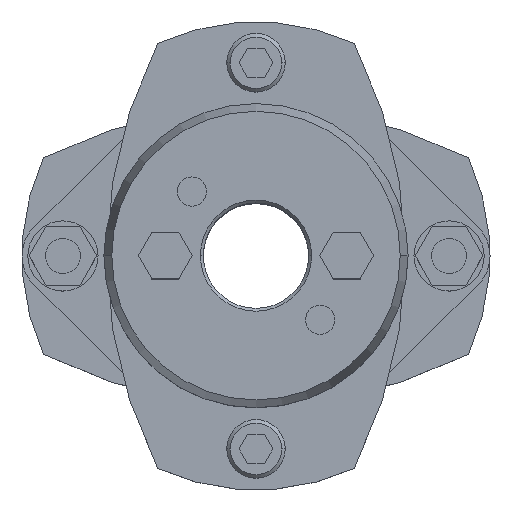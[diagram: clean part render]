
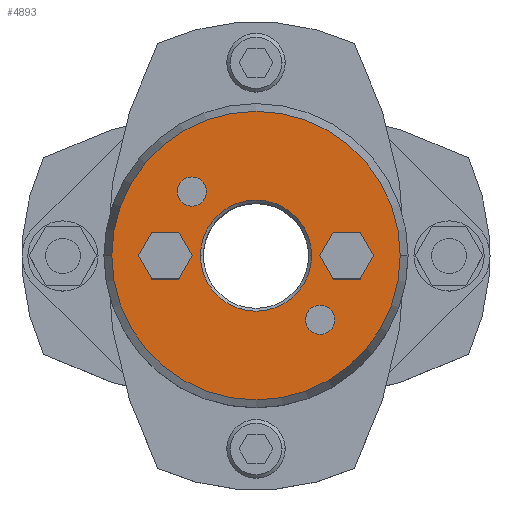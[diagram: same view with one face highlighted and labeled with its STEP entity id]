
A CAD part, top view. The second image highlights one B-rep face of the part: STEP entity #4893.
In plain terms, the highlighted planar face has unit normal (0, 0, 1).
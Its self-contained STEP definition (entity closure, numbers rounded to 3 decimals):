
#857=CARTESIAN_POINT('',(-9.5,0.,35.875));
#858=VERTEX_POINT('',#857);
#874=CARTESIAN_POINT('',(9.5,0.,35.875));
#875=VERTEX_POINT('',#874);
#882=CARTESIAN_POINT('',(0.,0.,35.875));
#883=DIRECTION('',(0.0,0.0,1.0));
#884=DIRECTION('',(-1.0,0.0,0.0));
#885=AXIS2_PLACEMENT_3D('',#882,#883,#884);
#886=CIRCLE('',#885,9.5);
#887=EDGE_CURVE('',#875,#858,#886,.T.);
#1045=CARTESIAN_POINT('',(24.66,0.,35.875));
#1046=VERTEX_POINT('',#1045);
#1053=CARTESIAN_POINT('',(-24.66,0.,35.875));
#1054=VERTEX_POINT('',#1053);
#1055=CARTESIAN_POINT('',(0.,0.,35.875));
#1056=DIRECTION('',(0.0,0.0,-1.0));
#1057=DIRECTION('',(1.0,0.0,0.0));
#1058=AXIS2_PLACEMENT_3D('',#1055,#1056,#1057);
#1059=CIRCLE('',#1058,24.66);
#1060=EDGE_CURVE('',#1046,#1054,#1059,.T.);
#1155=CARTESIAN_POINT('',(-13.46,10.96,35.875));
#1156=VERTEX_POINT('',#1155);
#1172=CARTESIAN_POINT('',(-8.46,10.96,35.875));
#1173=VERTEX_POINT('',#1172);
#1180=CARTESIAN_POINT('',(-10.96,10.96,35.875));
#1181=DIRECTION('',(0.0,0.0,-1.0));
#1182=DIRECTION('',(-1.0,0.0,0.0));
#1183=AXIS2_PLACEMENT_3D('',#1180,#1181,#1182);
#1184=CIRCLE('',#1183,2.5);
#1185=EDGE_CURVE('',#1156,#1173,#1184,.T.);
#1197=CARTESIAN_POINT('',(8.46,-10.96,35.875));
#1198=VERTEX_POINT('',#1197);
#1214=CARTESIAN_POINT('',(13.46,-10.96,35.875));
#1215=VERTEX_POINT('',#1214);
#1222=CARTESIAN_POINT('',(10.96,-10.96,35.875));
#1223=DIRECTION('',(0.0,0.0,-1.0));
#1224=DIRECTION('',(-1.0,0.0,0.0));
#1225=AXIS2_PLACEMENT_3D('',#1222,#1223,#1224);
#1226=CIRCLE('',#1225,2.5);
#1227=EDGE_CURVE('',#1198,#1215,#1226,.T.);
#4137=CARTESIAN_POINT('',(10.881,0.,35.875));
#4138=VERTEX_POINT('',#4137);
#4145=CARTESIAN_POINT('',(13.191,-4.,35.875));
#4146=VERTEX_POINT('',#4145);
#4147=CARTESIAN_POINT('',(13.191,-4.,35.875));
#4148=DIRECTION('',(-0.5,0.866,0.0));
#4149=VECTOR('',#4148,4.619);
#4150=LINE('',#4147,#4149);
#4151=EDGE_CURVE('',#4146,#4138,#4150,.T.);
#4175=CARTESIAN_POINT('',(13.191,4.,35.875));
#4176=VERTEX_POINT('',#4175);
#4183=CARTESIAN_POINT('',(10.881,0.,35.875));
#4184=DIRECTION('',(0.5,0.866,0.0));
#4185=VECTOR('',#4184,4.619);
#4186=LINE('',#4183,#4185);
#4187=EDGE_CURVE('',#4138,#4176,#4186,.T.);
#4206=CARTESIAN_POINT('',(17.809,4.,35.875));
#4207=VERTEX_POINT('',#4206);
#4214=CARTESIAN_POINT('',(13.191,4.,35.875));
#4215=DIRECTION('',(1.0,0.0,0.0));
#4216=VECTOR('',#4215,4.619);
#4217=LINE('',#4214,#4216);
#4218=EDGE_CURVE('',#4176,#4207,#4217,.T.);
#4237=CARTESIAN_POINT('',(20.119,0.,35.875));
#4238=VERTEX_POINT('',#4237);
#4245=CARTESIAN_POINT('',(17.809,4.,35.875));
#4246=DIRECTION('',(0.5,-0.866,0.0));
#4247=VECTOR('',#4246,4.619);
#4248=LINE('',#4245,#4247);
#4249=EDGE_CURVE('',#4207,#4238,#4248,.T.);
#4268=CARTESIAN_POINT('',(17.809,-4.,35.875));
#4269=VERTEX_POINT('',#4268);
#4276=CARTESIAN_POINT('',(20.119,0.,35.875));
#4277=DIRECTION('',(-0.5,-0.866,0.0));
#4278=VECTOR('',#4277,4.619);
#4279=LINE('',#4276,#4278);
#4280=EDGE_CURVE('',#4238,#4269,#4279,.T.);
#4298=CARTESIAN_POINT('',(17.809,-4.,35.875));
#4299=DIRECTION('',(-1.0,0.0,0.0));
#4300=VECTOR('',#4299,4.619);
#4301=LINE('',#4298,#4300);
#4302=EDGE_CURVE('',#4269,#4146,#4301,.T.);
#4337=CARTESIAN_POINT('',(-20.119,0.,35.875));
#4338=VERTEX_POINT('',#4337);
#4345=CARTESIAN_POINT('',(-17.809,-4.,35.875));
#4346=VERTEX_POINT('',#4345);
#4347=CARTESIAN_POINT('',(-17.809,-4.,35.875));
#4348=DIRECTION('',(-0.5,0.866,0.0));
#4349=VECTOR('',#4348,4.619);
#4350=LINE('',#4347,#4349);
#4351=EDGE_CURVE('',#4346,#4338,#4350,.T.);
#4375=CARTESIAN_POINT('',(-17.809,4.,35.875));
#4376=VERTEX_POINT('',#4375);
#4383=CARTESIAN_POINT('',(-20.119,0.,35.875));
#4384=DIRECTION('',(0.5,0.866,0.0));
#4385=VECTOR('',#4384,4.619);
#4386=LINE('',#4383,#4385);
#4387=EDGE_CURVE('',#4338,#4376,#4386,.T.);
#4406=CARTESIAN_POINT('',(-13.191,4.,35.875));
#4407=VERTEX_POINT('',#4406);
#4414=CARTESIAN_POINT('',(-17.809,4.,35.875));
#4415=DIRECTION('',(1.0,0.0,0.0));
#4416=VECTOR('',#4415,4.619);
#4417=LINE('',#4414,#4416);
#4418=EDGE_CURVE('',#4376,#4407,#4417,.T.);
#4437=CARTESIAN_POINT('',(-10.881,0.,35.875));
#4438=VERTEX_POINT('',#4437);
#4445=CARTESIAN_POINT('',(-13.191,4.,35.875));
#4446=DIRECTION('',(0.5,-0.866,0.0));
#4447=VECTOR('',#4446,4.619);
#4448=LINE('',#4445,#4447);
#4449=EDGE_CURVE('',#4407,#4438,#4448,.T.);
#4468=CARTESIAN_POINT('',(-13.191,-4.,35.875));
#4469=VERTEX_POINT('',#4468);
#4476=CARTESIAN_POINT('',(-10.881,0.,35.875));
#4477=DIRECTION('',(-0.5,-0.866,0.0));
#4478=VECTOR('',#4477,4.619);
#4479=LINE('',#4476,#4478);
#4480=EDGE_CURVE('',#4438,#4469,#4479,.T.);
#4498=CARTESIAN_POINT('',(-13.191,-4.,35.875));
#4499=DIRECTION('',(-1.0,0.0,0.0));
#4500=VECTOR('',#4499,4.619);
#4501=LINE('',#4498,#4500);
#4502=EDGE_CURVE('',#4469,#4346,#4501,.T.);
#4528=CARTESIAN_POINT('',(10.96,-10.96,35.875));
#4529=DIRECTION('',(0.0,0.0,-1.0));
#4530=DIRECTION('',(-1.0,0.0,0.0));
#4531=AXIS2_PLACEMENT_3D('',#4528,#4529,#4530);
#4532=CIRCLE('',#4531,2.5);
#4533=EDGE_CURVE('',#1215,#1198,#4532,.T.);
#4562=CARTESIAN_POINT('',(-10.96,10.96,35.875));
#4563=DIRECTION('',(0.0,0.0,-1.0));
#4564=DIRECTION('',(-1.0,0.0,0.0));
#4565=AXIS2_PLACEMENT_3D('',#4562,#4563,#4564);
#4566=CIRCLE('',#4565,2.5);
#4567=EDGE_CURVE('',#1173,#1156,#4566,.T.);
#4840=CARTESIAN_POINT('',(0.,0.,35.875));
#4841=DIRECTION('',(0.0,0.0,-1.0));
#4842=DIRECTION('',(1.0,0.0,0.0));
#4843=AXIS2_PLACEMENT_3D('',#4840,#4841,#4842);
#4844=CIRCLE('',#4843,24.66);
#4845=EDGE_CURVE('',#1054,#1046,#4844,.T.);
#4850=CARTESIAN_POINT('',(-2.364,0.,35.875));
#4851=DIRECTION('',(0.0,0.0,1.0));
#4852=DIRECTION('',(-1.0,0.0,0.0));
#4853=AXIS2_PLACEMENT_3D('',#4850,#4851,#4852);
#4854=PLANE('',#4853);
#4855=ORIENTED_EDGE('',*,*,#4845,.F.);
#4856=ORIENTED_EDGE('',*,*,#1060,.F.);
#4857=EDGE_LOOP('',(#4855,#4856));
#4858=FACE_OUTER_BOUND('',#4857,.T.);
#4859=ORIENTED_EDGE('',*,*,#4151,.T.);
#4860=ORIENTED_EDGE('',*,*,#4187,.T.);
#4861=ORIENTED_EDGE('',*,*,#4218,.T.);
#4862=ORIENTED_EDGE('',*,*,#4249,.T.);
#4863=ORIENTED_EDGE('',*,*,#4280,.T.);
#4864=ORIENTED_EDGE('',*,*,#4302,.T.);
#4865=EDGE_LOOP('',(#4859,#4860,#4861,#4862,#4863,#4864));
#4866=FACE_BOUND('',#4865,.T.);
#4867=ORIENTED_EDGE('',*,*,#4351,.T.);
#4868=ORIENTED_EDGE('',*,*,#4387,.T.);
#4869=ORIENTED_EDGE('',*,*,#4418,.T.);
#4870=ORIENTED_EDGE('',*,*,#4449,.T.);
#4871=ORIENTED_EDGE('',*,*,#4480,.T.);
#4872=ORIENTED_EDGE('',*,*,#4502,.T.);
#4873=EDGE_LOOP('',(#4867,#4868,#4869,#4870,#4871,#4872));
#4874=FACE_BOUND('',#4873,.T.);
#4875=ORIENTED_EDGE('',*,*,#1227,.T.);
#4876=ORIENTED_EDGE('',*,*,#4533,.T.);
#4877=EDGE_LOOP('',(#4875,#4876));
#4878=FACE_BOUND('',#4877,.T.);
#4879=ORIENTED_EDGE('',*,*,#1185,.T.);
#4880=ORIENTED_EDGE('',*,*,#4567,.T.);
#4881=EDGE_LOOP('',(#4879,#4880));
#4882=FACE_BOUND('',#4881,.T.);
#4883=ORIENTED_EDGE('',*,*,#887,.F.);
#4884=CARTESIAN_POINT('',(0.,0.,35.875));
#4885=DIRECTION('',(0.0,0.0,1.0));
#4886=DIRECTION('',(-1.0,0.0,0.0));
#4887=AXIS2_PLACEMENT_3D('',#4884,#4885,#4886);
#4888=CIRCLE('',#4887,9.5);
#4889=EDGE_CURVE('',#858,#875,#4888,.T.);
#4890=ORIENTED_EDGE('',*,*,#4889,.F.);
#4891=EDGE_LOOP('',(#4883,#4890));
#4892=FACE_BOUND('',#4891,.T.);
#4893=ADVANCED_FACE('',(#4858,#4866,#4874,#4878,#4882,#4892),#4854,.T.);
